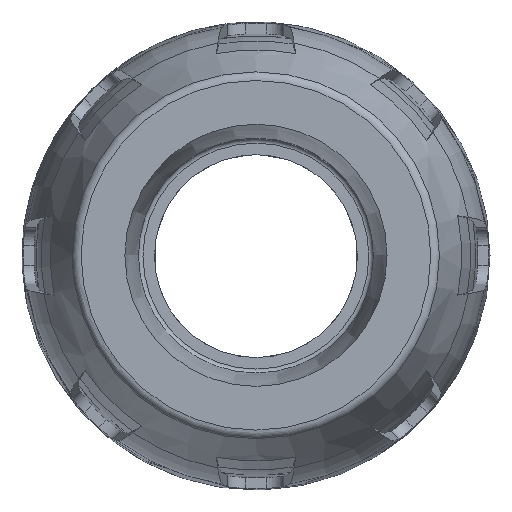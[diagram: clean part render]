
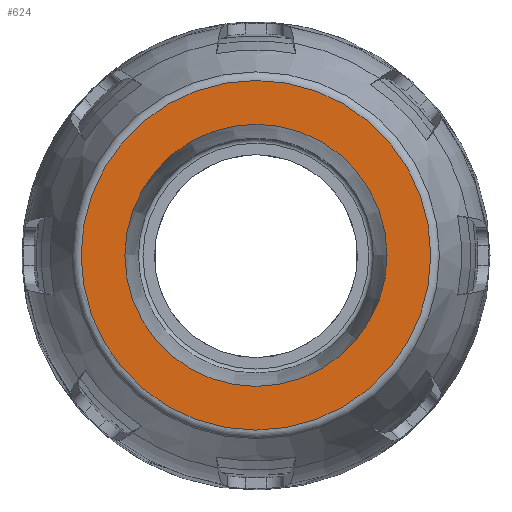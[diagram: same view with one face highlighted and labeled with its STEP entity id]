
A CAD part, top view. The second image highlights one B-rep face of the part: STEP entity #624.
In plain terms, the highlighted planar face has unit normal (0, 0, 1).
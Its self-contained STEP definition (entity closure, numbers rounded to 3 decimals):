
#624 = ADVANCED_FACE( '', ( #1366, #1367 ), #1368, .F. );
#1366 = FACE_BOUND( '', #3275, .T. );
#1367 = FACE_OUTER_BOUND( '', #3276, .T. );
#1368 = PLANE( '', #3277 );
#3275 = EDGE_LOOP( '', ( #5671 ) );
#3276 = EDGE_LOOP( '', ( #5672 ) );
#3277 = AXIS2_PLACEMENT_3D( '', #5673, #5674, #5675 );
#5671 = ORIENTED_EDGE( '', *, *, #7148, .F. );
#5672 = ORIENTED_EDGE( '', *, *, #6610, .F. );
#5673 = CARTESIAN_POINT( '', ( -19.827, 0., 16.53 ) );
#5674 = DIRECTION( '', ( 0., 0., -1. ) );
#5675 = DIRECTION( '', ( -1., 0., 0. ) );
#6610 = EDGE_CURVE( '', #7623, #7623, #7624, .F. );
#7148 = EDGE_CURVE( '', #8472, #8472, #8473, .T. );
#7623 = VERTEX_POINT( '', #9397 );
#7624 = CIRCLE( '', #9398, 19.114 );
#8472 = VERTEX_POINT( '', #11218 );
#8473 = CIRCLE( '', #11219, 14.331 );
#9397 = CARTESIAN_POINT( '', ( -19.114, 0., 16.53 ) );
#9398 = AXIS2_PLACEMENT_3D( '', #12168, #12169, #12170 );
#11218 = CARTESIAN_POINT( '', ( -14.331, 0., 16.53 ) );
#11219 = AXIS2_PLACEMENT_3D( '', #12809, #12810, #12811 );
#12168 = CARTESIAN_POINT( '', ( 0., 0., 16.53 ) );
#12169 = DIRECTION( '', ( 0., 0., 1. ) );
#12170 = DIRECTION( '', ( -1., 0., 0. ) );
#12809 = CARTESIAN_POINT( '', ( 0., 0., 16.53 ) );
#12810 = DIRECTION( '', ( 0., 0., 1. ) );
#12811 = DIRECTION( '', ( -1., 0., 0. ) );
